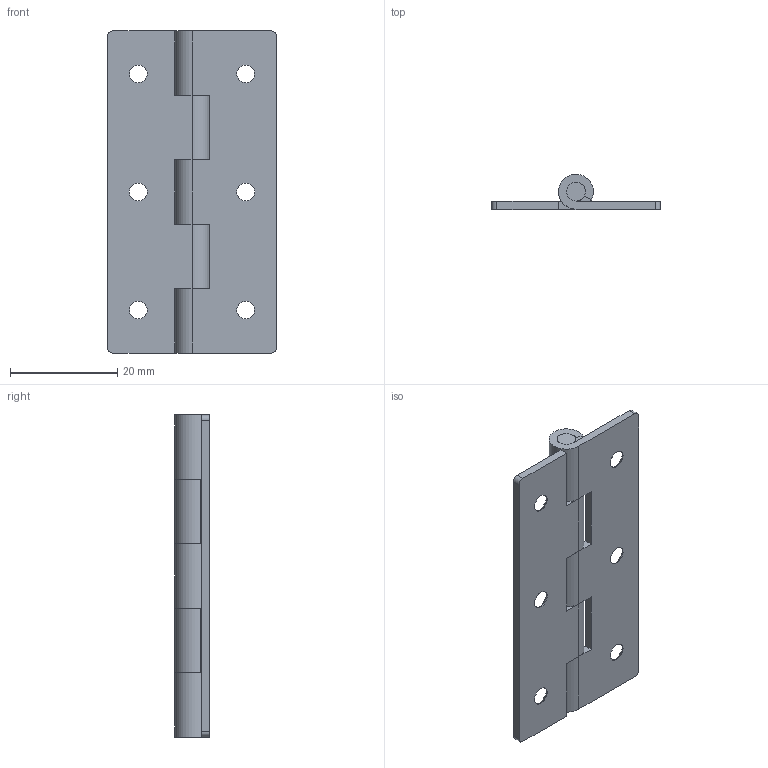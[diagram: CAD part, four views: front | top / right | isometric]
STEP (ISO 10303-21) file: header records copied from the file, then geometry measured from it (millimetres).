
FILE_DESCRIPTION(/* description */ (''),/* implementation_level */ '2;1');
FILE_NAME(/* name */ '\\NAS\db20\HH6032-15\DR_HH6032-15.stp',/* time_stamp */ '2017-08-17T08:24:25+09:00',/* author */ ('user'),/* organization */ (''),/* preprocessor_version */ 'ST-DEVELOPER v15.6',/* originating_system */ 'Autodesk Inventor 2015',/* authorisation */ '');
FILE_SCHEMA (('AUTOMOTIVE_DESIGN { 1 0 10303 214 3 1 1 }'));
Length unit declared in the file: millimetre
Products named in the file (1): DR_HH6032-15
Bounding box: 31.5 x 6.5 x 60 mm (x, y, z)
Volume: 4165.9 mm3; surface area: 6485.3 mm2
Topology: 3 solids, 3 shells, 67 faces, 185 edges, 122 vertices
Faces by surface type: plane 42, cylinder 19, cone 6
Full cylindrical faces by diameter (mm): 3.3 x6, 3.5 x1
Entity records: 2074 total; most frequent: DIRECTION 358, CARTESIAN_POINT 350, ORIENTED_EDGE 332, EDGE_CURVE 166, AXIS2_PLACEMENT_3D 124, VERTEX_POINT 116, LINE 110, VECTOR 110
